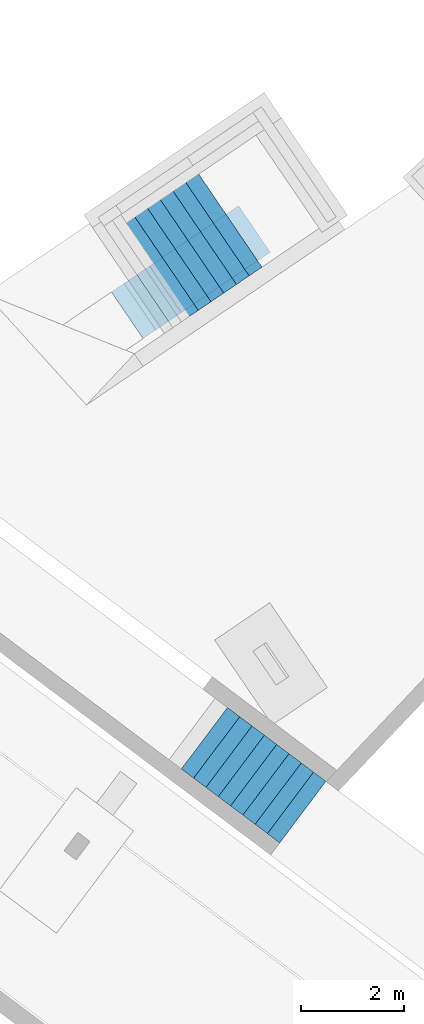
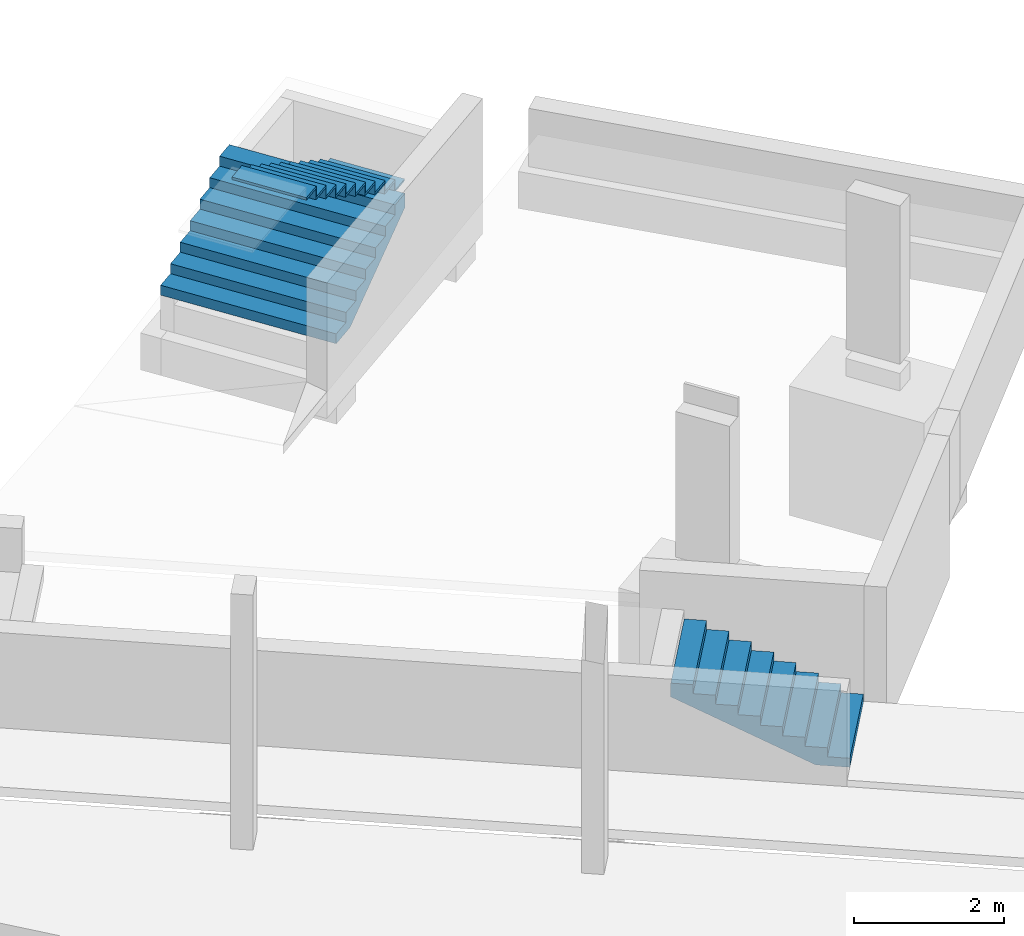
# One storey, part 7 of 11: 3 stair flights, 3 elements without a shape of their own.
"""IFC2X3 building model written with IfcOpenShell, lengths in metres."""

from ifc_helpers import new_model, entity, si_unit, converted_unit, derived_unit, direction, frame, origin, place, context, subcontext, project, spatial, faceted_brep, material, material_list, type_object, element, aggregate, save


model = new_model("IFC2X3")

# Units and contexts
model_context = context("Model", 3, precision=1e-05, world=origin(), true_north=direction((6.123031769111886e-17, 1.0)))
body_context = subcontext(model_context, "Body", "Model", "MODEL_VIEW")
ifc_project = project(units=[si_unit("LENGTHUNIT", "METRE"), si_unit("AREAUNIT", "SQUARE_METRE"), si_unit("VOLUMEUNIT", "CUBIC_METRE"), converted_unit("PLANEANGLEUNIT", "DEGREE", entity("IfcRatioMeasure", 0.017453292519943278), si_unit("PLANEANGLEUNIT", "RADIAN"), dimensions=[0, 0, 0, 0, 0, 0, 0]), si_unit("MASSUNIT", "GRAM", prefix="KILO"), derived_unit("MASSDENSITYUNIT", [(si_unit("MASSUNIT", "GRAM", prefix="KILO"), 1), (si_unit("LENGTHUNIT", "METRE"), -3)]), derived_unit("IONCONCENTRATIONUNIT", [(si_unit("MASSUNIT", "GRAM", prefix="KILO"), 1), (si_unit("LENGTHUNIT", "METRE"), -3)]), derived_unit("MOMENTOFINERTIAUNIT", [(si_unit("LENGTHUNIT", "METRE"), 4)]), si_unit("TIMEUNIT", "SECOND"), si_unit("FREQUENCYUNIT", "HERTZ"), si_unit("THERMODYNAMICTEMPERATUREUNIT", "DEGREE_CELSIUS"), derived_unit("THERMALTRANSMITTANCEUNIT", [(si_unit("MASSUNIT", "GRAM", prefix="KILO"), 1), (si_unit("THERMODYNAMICTEMPERATUREUNIT", "KELVIN"), -1), (si_unit("TIMEUNIT", "SECOND"), -3)]), derived_unit("THERMALCONDUCTANCEUNIT", [(si_unit("MASSUNIT", "GRAM", prefix="KILO"), 1), (si_unit("THERMODYNAMICTEMPERATUREUNIT", "KELVIN"), -1), (si_unit("TIMEUNIT", "SECOND"), -3), (si_unit("LENGTHUNIT", "METRE"), 1)]), derived_unit("VOLUMETRICFLOWRATEUNIT", [(si_unit("LENGTHUNIT", "METRE"), 3), (si_unit("TIMEUNIT", "SECOND"), -1)]), derived_unit("MASSFLOWRATEUNIT", [(si_unit("MASSUNIT", "GRAM", prefix="KILO"), 1), (si_unit("TIMEUNIT", "SECOND"), -1)]), derived_unit("ROTATIONALFREQUENCYUNIT", [(si_unit("TIMEUNIT", "SECOND"), -1)]), si_unit("ELECTRICCURRENTUNIT", "AMPERE"), si_unit("ELECTRICVOLTAGEUNIT", "VOLT"), si_unit("POWERUNIT", "WATT"), si_unit("FORCEUNIT", "NEWTON", prefix="KILO"), si_unit("ILLUMINANCEUNIT", "LUX"), si_unit("LUMINOUSFLUXUNIT", "LUMEN"), si_unit("LUMINOUSINTENSITYUNIT", "CANDELA"), derived_unit("USERDEFINED", [(si_unit("MASSUNIT", "GRAM", prefix="KILO"), -1), (si_unit("LENGTHUNIT", "METRE"), -2), (si_unit("TIMEUNIT", "SECOND"), 3), (si_unit("LUMINOUSFLUXUNIT", "LUMEN"), 1)]), derived_unit("USERDEFINED", [(si_unit("MASSUNIT", "GRAM", prefix="KILO"), 1), (si_unit("TIMEUNIT", "SECOND"), -3), (si_unit("LENGTHUNIT", "METRE"), 3), (si_unit("ELECTRICCURRENTUNIT", "AMPERE"), -2)]), derived_unit("SOUNDPOWERUNIT", [(si_unit("MASSUNIT", "GRAM", prefix="KILO"), 1), (si_unit("TIMEUNIT", "SECOND"), -3), (si_unit("LENGTHUNIT", "METRE"), 2)]), derived_unit("SOUNDPRESSUREUNIT", [(si_unit("MASSUNIT", "GRAM", prefix="KILO"), 1), (si_unit("LENGTHUNIT", "METRE"), -1), (si_unit("TIMEUNIT", "SECOND"), -2)]), derived_unit("LINEARVELOCITYUNIT", [(si_unit("LENGTHUNIT", "METRE"), 1), (si_unit("TIMEUNIT", "SECOND"), -1)]), si_unit("PRESSUREUNIT", "PASCAL"), derived_unit("USERDEFINED", [(si_unit("MASSUNIT", "GRAM", prefix="KILO"), 1), (si_unit("LENGTHUNIT", "METRE"), -2), (si_unit("TIMEUNIT", "SECOND"), -2)]), derived_unit("LINEARFORCEUNIT", [(si_unit("MASSUNIT", "GRAM", prefix="KILO"), 1), (si_unit("TIMEUNIT", "SECOND"), -2)]), derived_unit("PLANARFORCEUNIT", [(si_unit("MASSUNIT", "GRAM", prefix="KILO"), 1), (si_unit("LENGTHUNIT", "METRE"), -1), (si_unit("TIMEUNIT", "SECOND"), -2)]), derived_unit("SPECIFICHEATCAPACITYUNIT", [(si_unit("THERMODYNAMICTEMPERATUREUNIT", "KELVIN"), -1), (si_unit("LENGTHUNIT", "METRE"), 2), (si_unit("TIMEUNIT", "SECOND"), -2)]), derived_unit("HEATINGVALUEUNIT", [(si_unit("LENGTHUNIT", "METRE"), 2), (si_unit("TIMEUNIT", "SECOND"), -2)]), derived_unit("VAPORPERMEABILITYUNIT", [(si_unit("LENGTHUNIT", "METRE"), -1), (si_unit("TIMEUNIT", "SECOND"), 1)]), derived_unit("DYNAMICVISCOSITYUNIT", [(si_unit("MASSUNIT", "GRAM", prefix="KILO"), 1), (si_unit("TIMEUNIT", "SECOND"), -1), (si_unit("LENGTHUNIT", "METRE"), -1)]), derived_unit("THERMALEXPANSIONCOEFFICIENTUNIT", [(si_unit("THERMODYNAMICTEMPERATUREUNIT", "KELVIN"), -1)]), derived_unit("MODULUSOFELASTICITYUNIT", [(si_unit("MASSUNIT", "GRAM", prefix="KILO"), 1), (si_unit("LENGTHUNIT", "METRE"), -1), (si_unit("TIMEUNIT", "SECOND"), -2)]), derived_unit("ISOTHERMALMOISTURECAPACITYUNIT", [(si_unit("LENGTHUNIT", "METRE"), 3), (si_unit("MASSUNIT", "GRAM", prefix="KILO"), -1)]), derived_unit("MOISTUREDIFFUSIVITYUNIT", [(si_unit("TIMEUNIT", "SECOND"), -1), (si_unit("LENGTHUNIT", "METRE"), 2)])], contexts=[model_context])

# Site, building, storey
site_placement = place(None, origin())
site = spatial("IfcSite", under=ifc_project, at=site_placement, Name="Default", CompositionType="ELEMENT")
building_placement = place(site_placement, frame((0.0, 0.0, 235.0), z_axis=(0.0, 0.0, 1.0), x_axis=(-0.7996477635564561, 0.6004693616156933, 0.0)))
building = spatial("IfcBuilding", under=site, at=building_placement, CompositionType="ELEMENT")
storey_placement = place(building_placement, frame((0.0, 0.0, -4.459999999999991)))
storey = spatial("IfcBuildingStorey", under=building, at=storey_placement, Name="PS1- Vestuari", CompositionType="ELEMENT", Elevation=-4.459999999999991)

# Stair, stair flight
stair_1_placement = place(storey_placement, origin())
stair_1 = element("IfcStair", 1, at=stair_1_placement, inside=storey, Name="Escalera moldeada in situ:Escalera", ShapeType="STRAIGHT_RUN_STAIR")
ifc_material_1 = material(Name="_Formigó- T1- STR")
stair_flight_type_1 = type_object("IfcStairFlightType", Name="Tramo monolítico:E00- STR- Ext", PredefinedType="STRAIGHT")
stair_flight_1_placement = place(stair_1_placement, frame((58.77214768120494, -43.84019175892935, 0.0)))
stair_flight_1 = element("IfcStairFlight", 2, at=stair_flight_1_placement, type_object=stair_flight_type_1, material=ifc_material_1, Name="Escalera moldeada in situ:Escalera:42180 Run 1", ObjectType="Tramo monolítico:E00- STR- Ext", NumberOfRiser=9, NumberOfTreads=8, RiserHeight=0.4775444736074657, TreadLength=0.9842519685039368, context=body_context, shape_type="Brep", body=[
    faceted_brep([(0.3000000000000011, 1.4999999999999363, 0.09555555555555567), (0.0, 1.4999999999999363, 0.09555555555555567), (0.0, 0.0, 0.09555555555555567), (0.3000000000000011, 0.0, 0.09555555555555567), (0.3000000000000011, 1.4999999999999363, -0.05), (0.0, 1.4999999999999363, -0.05), (0.0, 0.0, -0.05), (0.3000000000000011, 0.0, -0.05), (0.6000000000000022, 1.4999999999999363, 0.24111111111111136), (0.3000000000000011, 1.4999999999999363, 0.24111111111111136), (0.3000000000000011, 0.0, 0.24111111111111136), (0.6000000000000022, 0.0, 0.24111111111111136), (0.5999999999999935, 1.4999999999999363, 0.018813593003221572), (0.4581704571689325, 1.4999999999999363, -0.05), (0.45817045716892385, 0.0, -0.0499999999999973), (0.6000000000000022, 0.0, 0.018813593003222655), (0.9000000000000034, 1.4999999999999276, 0.16436914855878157), (1.200000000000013, 1.4999999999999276, 0.3099247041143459), (1.499999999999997, 1.4999999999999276, 0.4554802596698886), (1.799999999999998, 1.4999999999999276, 0.6010358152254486), (2.099999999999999, 1.4999999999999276, 0.7465913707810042), (2.4000000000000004, 1.4999999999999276, 0.8921469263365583), (2.4000000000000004, 0.0, 0.89214692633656), (2.099999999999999, 0.0, 0.7465913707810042), (1.799999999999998, 0.0, 0.6010358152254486), (1.499999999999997, 0.0, 0.4554802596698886), (1.200000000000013, 0.0, 0.3099247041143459), (0.9000000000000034, 0.0, 0.16436914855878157), (0.9000000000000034, 1.4999999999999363, 0.3866666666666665), (0.6000000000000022, 1.4999999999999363, 0.3866666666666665), (0.6000000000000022, 0.0, 0.3866666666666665), (0.9000000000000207, 0.0, 0.3866666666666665), (1.2000000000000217, 1.4999999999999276, 0.5322222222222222), (0.9000000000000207, 1.4999999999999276, 0.5322222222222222), (0.9000000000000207, 0.0, 0.5322222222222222), (1.1999999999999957, 0.0, 0.5322222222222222), (1.499999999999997, 1.4999999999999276, 0.6777777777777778), (1.1999999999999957, 1.4999999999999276, 0.6777777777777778), (1.1999999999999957, 0.0, 0.6777777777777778), (1.499999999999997, 0.0, 0.6777777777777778), (1.799999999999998, 1.4999999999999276, 0.8233333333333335), (1.499999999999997, 1.4999999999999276, 0.8233333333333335), (1.499999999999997, 0.0, 0.8233333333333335), (1.799999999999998, 0.0, 0.8233333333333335), (2.099999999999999, 1.4999999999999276, 0.9688888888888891), (1.799999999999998, 1.4999999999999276, 0.9688888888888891), (1.799999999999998, 0.0, 0.9688888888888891), (2.099999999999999, 0.0, 0.9688888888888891), (2.4000000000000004, 1.4999999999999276, 1.1144444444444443), (2.099999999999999, 1.4999999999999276, 1.1144444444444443), (2.099999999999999, 0.0, 1.1144444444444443), (2.4000000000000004, 0.0, 1.1144444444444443)], [[[0, 1, 2, 3]], [[1, 0, 4, 5]], [[2, 1, 5, 6]], [[3, 2, 6, 7]], [[8, 9, 10, 11]], [[4, 0, 9, 8, 12, 13]], [[0, 3, 10, 9]], [[3, 7, 14, 15, 11, 10]], [[5, 4, 13, 14, 7, 6]], [[14, 13, 12, 16, 17, 18, 19, 20, 21, 22, 23, 24, 25, 26, 27, 15]], [[28, 29, 30, 31]], [[29, 28, 16, 12, 8]], [[8, 11, 30, 29]], [[31, 30, 11, 15, 27]], [[32, 33, 34, 35]], [[33, 32, 17, 16, 28]], [[28, 31, 34, 33]], [[35, 34, 31, 27, 26]], [[36, 37, 38, 39]], [[37, 36, 18, 17, 32]], [[32, 35, 38, 37]], [[39, 38, 35, 26, 25]], [[40, 41, 42, 43]], [[41, 40, 19, 18, 36]], [[36, 39, 42, 41]], [[43, 42, 39, 25, 24]], [[44, 45, 46, 47]], [[45, 44, 20, 19, 40]], [[40, 43, 46, 45]], [[47, 46, 43, 24, 23]], [[48, 49, 50, 51]], [[49, 48, 21, 20, 44]], [[44, 47, 50, 49]], [[51, 50, 47, 23, 22]], [[48, 51, 22, 21]]]),
])
aggregate(stair_1, [stair_flight_1])

stair_2_placement = place(storey_placement, origin())
stair_2 = element("IfcStair", 3, at=stair_2_placement, inside=storey, Name="Escalera moldeada in situ:Escalera", ShapeType="STRAIGHT_RUN_STAIR")
stair_flight_2_placement = place(stair_2_placement, frame((65.79235474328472, -51.95232451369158, 0.0)))
stair_flight_2 = element("IfcStairFlight", 4, at=stair_flight_2_placement, type_object=stair_flight_type_1, material=ifc_material_1, Name="Escalera moldeada in situ:Escalera:42246 Run 1", ObjectType="Tramo monolítico:E00- STR- Ext", NumberOfRiser=7, NumberOfTreads=8, RiserHeight=0.5249343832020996, TreadLength=0.984251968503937, context=body_context, shape_type="Brep", body=[
    faceted_brep([(3.038359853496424, 1.7028068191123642, 1.6200000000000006), (3.1356065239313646, 1.9866079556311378, 1.6200000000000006), (0.6807266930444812, 2.8277916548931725, 1.6200000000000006), (0.5834800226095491, 2.5439905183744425, 1.6200000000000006), (3.038359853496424, 1.7028068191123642, 1.46), (3.1356065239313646, 1.9866079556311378, 1.4600000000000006), (0.6807266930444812, 2.8277916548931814, 1.4600000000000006), (0.5834800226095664, 2.543990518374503, 1.46), (2.941113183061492, 1.4190056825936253, 1.7800000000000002), (3.0383598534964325, 1.7028068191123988, 1.7800000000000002), (0.5834800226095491, 2.5439905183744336, 1.7800000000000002), (0.4862333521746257, 2.260189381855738, 1.7800000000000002), (2.941113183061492, 1.4190056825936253, 1.5533333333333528), (2.997840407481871, 1.5845563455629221, 1.46), (0.5429605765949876, 2.4257400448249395, 1.4599999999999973), (0.48623335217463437, 2.260189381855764, 1.5533333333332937), (2.843866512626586, 1.1352045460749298, 1.713333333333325), (2.746619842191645, 0.8514034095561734, 1.8733333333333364), (2.649373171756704, 0.5676022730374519, 2.0333333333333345), (2.5521265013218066, 0.28380113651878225, 2.1933333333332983), (2.454879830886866, 0.0, 2.3533333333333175), (0.0, 0.8411836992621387, 2.353333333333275), (0.09724667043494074, 1.1249848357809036, 2.1933333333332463), (0.19449334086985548, 1.408785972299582, 2.033333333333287), (0.29174001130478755, 1.6925871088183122, 1.87333333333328), (0.3889866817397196, 1.9763882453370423, 1.7133333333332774), (2.843866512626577, 1.1352045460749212, 1.9400000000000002), (2.9411131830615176, 1.4190056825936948, 1.9400000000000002), (0.48623335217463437, 2.2601893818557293, 1.9400000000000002), (0.3889866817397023, 1.976388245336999, 1.9400000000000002), (2.746619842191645, 0.8514034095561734, 2.1000000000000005), (2.843866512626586, 1.1352045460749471, 2.1000000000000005), (0.3889866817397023, 1.9763882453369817, 2.1000000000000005), (0.29174001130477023, 1.6925871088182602, 2.1000000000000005), (2.649373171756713, 0.5676022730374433, 2.2600000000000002), (2.7466198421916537, 0.8514034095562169, 2.2600000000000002), (0.29174001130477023, 1.6925871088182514, 2.2600000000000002), (0.19449334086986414, 1.4087859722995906, 2.2600000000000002), (2.552126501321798, 0.2838011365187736, 2.4200000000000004), (2.649373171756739, 0.5676022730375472, 2.4200000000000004), (0.19449334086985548, 1.408785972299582, 2.4200000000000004), (0.09724667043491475, 1.124984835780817, 2.4200000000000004), (2.4548798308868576, 0.0, 2.5800000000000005), (2.552126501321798, 0.2838011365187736, 2.5800000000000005), (0.09724667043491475, 1.1249848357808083, 2.5800000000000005), (0.0, 0.8411836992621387, 2.5800000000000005), (2.4548798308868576, 0.0, 2.38), (0.0, 0.8411836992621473, 2.38)], [[[0, 1, 2, 3]], [[1, 0, 4, 5]], [[2, 1, 5, 6]], [[3, 2, 6, 7]], [[8, 9, 10, 11]], [[4, 0, 9, 8, 12, 13]], [[0, 3, 10, 9]], [[3, 7, 14, 15, 11, 10]], [[5, 4, 13, 14, 7, 6]], [[14, 13, 12, 16, 17, 18, 19, 20, 21, 22, 23, 24, 25, 15]], [[26, 27, 28, 29]], [[27, 26, 16, 12, 8]], [[8, 11, 28, 27]], [[29, 28, 11, 15, 25]], [[30, 31, 32, 33]], [[31, 30, 17, 16, 26]], [[26, 29, 32, 31]], [[33, 32, 29, 25, 24]], [[34, 35, 36, 37]], [[35, 34, 18, 17, 30]], [[30, 33, 36, 35]], [[37, 36, 33, 24, 23]], [[38, 39, 40, 41]], [[39, 38, 19, 18, 34]], [[34, 37, 40, 39]], [[41, 40, 37, 23, 22]], [[42, 43, 44, 45]], [[43, 42, 46, 20, 19, 38]], [[38, 41, 44, 43]], [[45, 44, 41, 22, 21, 47]], [[42, 45, 47, 21, 20, 46]]]),
])
aggregate(stair_2, [stair_flight_2])

stair_3_placement = place(storey_placement, origin())
stair_3 = element("IfcStair", 5, at=stair_3_placement, inside=storey, Name="Escalera moldeada in situ:Escalera", ShapeType="STRAIGHT_RUN_STAIR")
ifc_material_2 = material(Name="_PAV escales STR")
ifc_material_3 = material(Name="_Acer- STR")
ifc_material_list = material_list([ifc_material_2, ifc_material_3])
stair_flight_type_2 = type_object("IfcStairFlightType", Name="Tramo monolítico:E00- STR- Acer", PredefinedType="STRAIGHT")
stair_flight_3_placement = place(stair_3_placement, frame((65.8368614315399, -51.80008596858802, 0.0)))
stair_flight_3 = element("IfcStairFlight", 6, at=stair_flight_3_placement, type_object=stair_flight_type_2, material=ifc_material_list, Name="Escalera moldeada in situ:Escalera:92117 Run 1", ObjectType="Tramo monolítico:E00- STR- Acer", NumberOfRiser=10, NumberOfTreads=10, RiserHeight=0.5774278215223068, TreadLength=0.9842519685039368, context=body_context, shape_type="Brep", body=[
    faceted_brep([(0.09724667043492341, 0.6403722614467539, 2.58), (0.0, 0.3565711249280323, 2.58), (1.0406041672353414, 0.0, 2.58), (1.1378508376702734, 0.2838011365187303, 2.58), (0.09724667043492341, 0.6403722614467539, 2.55), (1.1378508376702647, 0.2838011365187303, 2.55), (1.0406041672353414, 0.0, 2.55), (0.0, 0.3565711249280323, 2.55)], [[[0, 1, 2, 3]], [[4, 5, 6, 7]], [[1, 0, 4, 7]], [[2, 1, 7, 6]], [[3, 2, 6, 5]], [[0, 3, 5, 4]]]),
    faceted_brep([(0.19449334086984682, 0.9241733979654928, 2.755999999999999), (0.09724667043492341, 0.6403722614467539, 2.755999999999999), (1.1378508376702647, 0.2838011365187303, 2.755999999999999), (1.2350975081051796, 0.5676022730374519, 2.755999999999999), (0.19449334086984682, 0.9241733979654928, 2.7259999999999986), (1.2350975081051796, 0.5676022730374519, 2.7259999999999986), (1.1378508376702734, 0.2838011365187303, 2.7259999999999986), (0.09724667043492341, 0.6403722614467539, 2.7259999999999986)], [[[0, 1, 2, 3]], [[4, 5, 6, 7]], [[1, 0, 4, 7]], [[2, 1, 7, 6]], [[3, 2, 6, 5]], [[0, 3, 5, 4]]]),
    faceted_brep([(0.29174001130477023, 1.2079745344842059, 2.931999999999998), (0.19449334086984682, 0.9241733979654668, 2.931999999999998), (1.2350975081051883, 0.5676022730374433, 2.931999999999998), (1.332344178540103, 0.8514034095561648, 2.931999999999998), (0.29174001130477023, 1.2079745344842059, 2.9019999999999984), (1.332344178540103, 0.8514034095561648, 2.9019999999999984), (1.235097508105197, 0.5676022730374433, 2.9019999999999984), (0.19449334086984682, 0.9241733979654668, 2.9019999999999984)], [[[0, 1, 2, 3]], [[4, 5, 6, 7]], [[1, 0, 4, 7]], [[2, 1, 7, 6]], [[3, 2, 6, 5]], [[0, 3, 5, 4]]]),
    faceted_brep([(0.3889866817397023, 1.4917756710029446, 3.1079999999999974), (0.2917400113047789, 1.2079745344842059, 3.1079999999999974), (1.3323441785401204, 0.8514034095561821, 3.1079999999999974), (1.429590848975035, 1.1352045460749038, 3.1079999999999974), (0.3889866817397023, 1.4917756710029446, 3.0779999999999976), (1.429590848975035, 1.1352045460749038, 3.0779999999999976), (1.332344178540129, 0.8514034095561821, 3.0779999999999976), (0.2917400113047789, 1.2079745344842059, 3.0779999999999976)], [[[0, 1, 2, 3]], [[4, 5, 6, 7]], [[1, 0, 4, 7]], [[2, 1, 7, 6]], [[3, 2, 6, 5]], [[0, 3, 5, 4]]]),
    faceted_brep([(0.48623335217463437, 1.775576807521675, 3.2839999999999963), (0.38898668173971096, 1.491775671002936, 3.2839999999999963), (1.4295908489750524, 1.1352045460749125, 3.2839999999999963), (1.5268375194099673, 1.419005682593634, 3.2839999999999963), (0.48623335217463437, 1.775576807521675, 3.2539999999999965), (1.5268375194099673, 1.419005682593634, 3.2539999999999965), (1.429590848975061, 1.1352045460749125, 3.2539999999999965), (0.38898668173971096, 1.491775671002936, 3.2539999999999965)], [[[0, 1, 2, 3]], [[4, 5, 6, 7]], [[1, 0, 4, 7]], [[2, 1, 7, 6]], [[3, 2, 6, 5]], [[0, 3, 5, 4]]]),
    faceted_brep([(0.5834800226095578, 2.059377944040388, 3.459999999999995), (0.48623335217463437, 1.775576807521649, 3.459999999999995), (1.526837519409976, 1.4190056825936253, 3.459999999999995), (1.6240841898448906, 1.7028068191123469, 3.459999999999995), (0.5834800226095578, 2.059377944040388, 3.4299999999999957), (1.6240841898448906, 1.7028068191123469, 3.4299999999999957), (1.5268375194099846, 1.4190056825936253, 3.4299999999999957), (0.48623335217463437, 1.775576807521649, 3.4299999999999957)], [[[0, 1, 2, 3]], [[4, 5, 6, 7]], [[1, 0, 4, 7]], [[2, 1, 7, 6]], [[3, 2, 6, 5]], [[0, 3, 5, 4]]]),
    faceted_brep([(0.6807266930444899, 2.343179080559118, 3.6359999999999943), (0.5834800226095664, 2.059377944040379, 3.6359999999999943), (1.6240841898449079, 1.7028068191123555, 3.6359999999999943), (1.7213308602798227, 1.9866079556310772, 3.6359999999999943), (0.6807266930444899, 2.343179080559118, 3.6059999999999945), (1.7213308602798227, 1.9866079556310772, 3.6059999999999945), (1.6240841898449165, 1.7028068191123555, 3.6059999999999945), (0.5834800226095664, 2.059377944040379, 3.6059999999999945)], [[[0, 1, 2, 3]], [[4, 5, 6, 7]], [[1, 0, 4, 7]], [[2, 1, 7, 6]], [[3, 2, 6, 5]], [[0, 3, 5, 4]]]),
    faceted_brep([(0.7779733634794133, 2.626980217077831, 3.8119999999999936), (0.6807266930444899, 2.3431790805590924, 3.8119999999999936), (1.7213308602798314, 1.9866079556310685, 3.8119999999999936), (1.818577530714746, 2.2704090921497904, 3.8119999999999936), (0.7779733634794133, 2.626980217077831, 3.7819999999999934), (1.818577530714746, 2.2704090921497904, 3.7819999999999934), (1.72133086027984, 1.9866079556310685, 3.7819999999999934), (0.6807266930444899, 2.3431790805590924, 3.7819999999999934)], [[[0, 1, 2, 3]], [[4, 5, 6, 7]], [[1, 0, 4, 7]], [[2, 1, 7, 6]], [[3, 2, 6, 5]], [[0, 3, 5, 4]]]),
    faceted_brep([(0.8752200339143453, 2.9107813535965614, 3.987999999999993), (0.7779733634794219, 2.6269802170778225, 3.987999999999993), (1.8185775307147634, 2.270409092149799, 3.987999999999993), (1.9158242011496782, 2.5542102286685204, 3.987999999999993), (0.8752200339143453, 2.9107813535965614, 3.9579999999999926), (1.9158242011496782, 2.5542102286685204, 3.9579999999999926), (1.818577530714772, 2.270409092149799, 3.9579999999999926), (0.7779733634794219, 2.6269802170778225, 3.9579999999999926)], [[[0, 1, 2, 3]], [[4, 5, 6, 7]], [[1, 0, 4, 7]], [[2, 1, 7, 6]], [[3, 2, 6, 5]], [[0, 3, 5, 4]]]),
    faceted_brep([(0.9724667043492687, 3.194582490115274, 4.163999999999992), (0.8752200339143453, 2.9107813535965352, 4.163999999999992), (1.9158242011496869, 2.554210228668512, 4.163999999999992), (2.0130708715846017, 2.838011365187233, 4.163999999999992), (0.9724667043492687, 3.194582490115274, 4.1339999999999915), (2.0130708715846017, 2.838011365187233, 4.1339999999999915), (1.9158242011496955, 2.554210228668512, 4.1339999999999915), (0.8752200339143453, 2.9107813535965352, 4.1339999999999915)], [[[0, 1, 2, 3]], [[4, 5, 6, 7]], [[1, 0, 4, 7]], [[2, 1, 7, 6]], [[3, 2, 6, 5]], [[0, 3, 5, 4]]]),
    faceted_brep([(0.19449334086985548, 0.9241733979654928, 2.7259999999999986), (0.09724667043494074, 0.6403722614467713, 2.7259999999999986), (1.1378508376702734, 0.2838011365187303, 2.7259999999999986), (1.2350975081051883, 0.5676022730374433, 2.7259999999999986), (0.19449334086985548, 0.9241733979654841, 2.715999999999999), (0.10048822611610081, 0.6498322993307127, 2.715999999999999), (0.10048822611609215, 0.6498322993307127, 2.58), (0.09724667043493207, 0.6403722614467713, 2.58), (1.1378508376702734, 0.28380113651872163, 2.58), (1.1410923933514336, 0.2932611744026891, 2.58), (1.1410923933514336, 0.29326117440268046, 2.715999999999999), (1.235097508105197, 0.5676022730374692, 2.715999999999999), (0.2917400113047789, 1.2079745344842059, 2.9019999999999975), (0.19449334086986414, 0.9241733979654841, 2.9019999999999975), (1.235097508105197, 0.5676022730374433, 2.9019999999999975), (1.332344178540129, 0.8514034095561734, 2.9019999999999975), (0.2917400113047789, 1.2079745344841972, 2.891999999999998), (0.19773489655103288, 0.933633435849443, 2.891999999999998), (0.19773489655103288, 0.933633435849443, 2.715999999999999), (1.238339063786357, 0.5770623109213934, 2.715999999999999), (1.238339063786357, 0.5770623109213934, 2.891999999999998), (1.3323441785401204, 0.8514034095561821, 2.891999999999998), (0.38898668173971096, 1.491775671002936, 3.077999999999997), (0.2917400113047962, 1.2079745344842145, 3.077999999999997), (1.332344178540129, 0.8514034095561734, 3.077999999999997), (1.4295908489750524, 1.1352045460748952, 3.077999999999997), (0.38898668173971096, 1.4917756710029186, 3.067999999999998), (0.2949815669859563, 1.2174345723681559, 3.067999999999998), (0.2949815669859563, 1.2174345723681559, 2.891999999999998), (1.3355857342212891, 0.8608634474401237, 2.891999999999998), (1.3355857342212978, 0.8608634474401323, 3.067999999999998), (1.4295908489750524, 1.1352045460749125, 3.067999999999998), (0.48623335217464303, 1.7755768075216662, 3.253999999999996), (0.3889866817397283, 1.4917756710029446, 3.253999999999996), (1.429590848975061, 1.1352045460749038, 3.253999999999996), (1.5268375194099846, 1.4190056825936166, 3.253999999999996), (0.48623335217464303, 1.7755768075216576, 3.243999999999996), (0.3922282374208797, 1.5012357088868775, 3.243999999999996), (0.39222823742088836, 1.5012357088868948, 3.067999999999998), (1.4328324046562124, 1.1446645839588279, 3.067999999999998), (1.4328324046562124, 1.1446645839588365, 3.243999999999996), (1.5268375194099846, 1.4190056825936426, 3.243999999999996), (0.5834800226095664, 2.059377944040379, 3.4299999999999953), (0.4862333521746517, 1.7755768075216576, 3.4299999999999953), (1.5268375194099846, 1.4190056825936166, 3.4299999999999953), (1.6240841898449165, 1.7028068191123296, 3.4299999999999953), (0.5834800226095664, 2.059377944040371, 3.419999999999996), (0.48947490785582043, 1.7850368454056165, 3.419999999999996), (0.48947490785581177, 1.7850368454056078, 3.243999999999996), (1.5300790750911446, 1.4284657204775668, 3.243999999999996), (1.5300790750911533, 1.4284657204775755, 3.419999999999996), (1.6240841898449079, 1.7028068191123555, 3.419999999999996), (0.6807266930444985, 2.3431790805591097, 3.6059999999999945), (0.5834800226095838, 2.059377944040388, 3.6059999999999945), (1.6240841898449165, 1.7028068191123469, 3.6059999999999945), (1.72133086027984, 1.9866079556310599, 3.6059999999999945), (0.6807266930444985, 2.343179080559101, 3.5959999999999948), (0.5867215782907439, 2.068837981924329, 3.5959999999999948), (0.5867215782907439, 2.068837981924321, 3.419999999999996), (1.6273257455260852, 1.7122668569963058, 3.419999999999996), (1.6273257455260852, 1.7122668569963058, 3.5959999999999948), (1.72133086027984, 1.9866079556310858, 3.5959999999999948), (0.7779733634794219, 2.6269802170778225, 3.7819999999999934), (0.6807266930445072, 2.343179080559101, 3.7819999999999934), (1.72133086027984, 1.9866079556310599, 3.7819999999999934), (1.8185775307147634, 2.2704090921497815, 3.7819999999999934), (0.7779733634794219, 2.626980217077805, 3.7719999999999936), (0.683968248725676, 2.352639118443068, 3.7719999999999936), (0.683968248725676, 2.352639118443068, 3.5959999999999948), (1.724572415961, 1.9960679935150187, 3.5959999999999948), (1.7245724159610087, 1.9960679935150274, 3.7719999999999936), (1.8185775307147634, 2.270409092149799, 3.7719999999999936), (0.875220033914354, 2.9107813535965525, 3.9579999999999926), (0.7779733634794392, 2.626980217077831, 3.9579999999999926), (1.818577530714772, 2.2704090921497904, 3.9579999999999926), (1.9158242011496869, 2.5542102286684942, 3.9579999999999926), (0.875220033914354, 2.9107813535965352, 3.947999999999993), (0.7812149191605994, 2.6364402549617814, 3.947999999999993), (0.7812149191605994, 2.6364402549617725, 3.7719999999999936), (1.8218190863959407, 2.2798691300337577, 3.7719999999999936), (1.8218190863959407, 2.279869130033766, 3.947999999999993), (1.9158242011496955, 2.5542102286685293, 3.947999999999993), (0.9724667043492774, 3.1945824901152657, 4.1339999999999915), (0.8752200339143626, 2.910781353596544, 4.1339999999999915), (1.9158242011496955, 2.554210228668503, 4.1339999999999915), (2.0130708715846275, 2.838011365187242, 4.1339999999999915), (0.9724667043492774, 3.1945824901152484, 4.123999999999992), (0.8784615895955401, 2.9202413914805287, 4.123999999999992), (0.8784615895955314, 2.9202413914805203, 3.947999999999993), (1.9190657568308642, 2.5636702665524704, 3.947999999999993), (1.9190657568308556, 2.563670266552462, 4.123999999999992), (2.0130708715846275, 2.838011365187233, 4.123999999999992)], [[[0, 1, 2, 3]], [[1, 0, 4, 5, 6, 7]], [[2, 1, 7, 8]], [[3, 2, 8, 9, 10, 11]], [[12, 13, 14, 15]], [[13, 12, 16, 17, 18, 4, 0]], [[0, 3, 14, 13]], [[15, 14, 3, 11, 19, 20, 21]], [[22, 23, 24, 25]], [[23, 22, 26, 27, 28, 16, 12]], [[12, 15, 24, 23]], [[25, 24, 15, 21, 29, 30, 31]], [[32, 33, 34, 35]], [[33, 32, 36, 37, 38, 26, 22]], [[22, 25, 34, 33]], [[35, 34, 25, 31, 39, 40, 41]], [[42, 43, 44, 45]], [[43, 42, 46, 47, 48, 36, 32]], [[32, 35, 44, 43]], [[45, 44, 35, 41, 49, 50, 51]], [[52, 53, 54, 55]], [[53, 52, 56, 57, 58, 46, 42]], [[42, 45, 54, 53]], [[55, 54, 45, 51, 59, 60, 61]], [[62, 63, 64, 65]], [[63, 62, 66, 67, 68, 56, 52]], [[52, 55, 64, 63]], [[65, 64, 55, 61, 69, 70, 71]], [[72, 73, 74, 75]], [[73, 72, 76, 77, 78, 66, 62]], [[62, 65, 74, 73]], [[75, 74, 65, 71, 79, 80, 81]], [[82, 83, 84, 85]], [[83, 82, 86, 87, 88, 76, 72]], [[72, 75, 84, 83]], [[85, 84, 75, 81, 89, 90, 91]], [[82, 85, 91, 86]], [[8, 7, 6, 9]], [[5, 10, 9, 6]], [[18, 19, 11, 10, 5, 4]], [[19, 18, 17, 20]], [[28, 29, 21, 20, 17, 16]], [[29, 28, 27, 30]], [[38, 39, 31, 30, 27, 26]], [[39, 38, 37, 40]], [[48, 49, 41, 40, 37, 36]], [[49, 48, 47, 50]], [[58, 59, 51, 50, 47, 46]], [[59, 58, 57, 60]], [[68, 69, 61, 60, 57, 56]], [[69, 68, 67, 70]], [[78, 79, 71, 70, 67, 66]], [[79, 78, 77, 80]], [[88, 89, 81, 80, 77, 76]], [[89, 88, 87, 90]], [[90, 87, 86, 91]]]),
])
aggregate(stair_3, [stair_flight_3])

save(model, "model.ifc")
